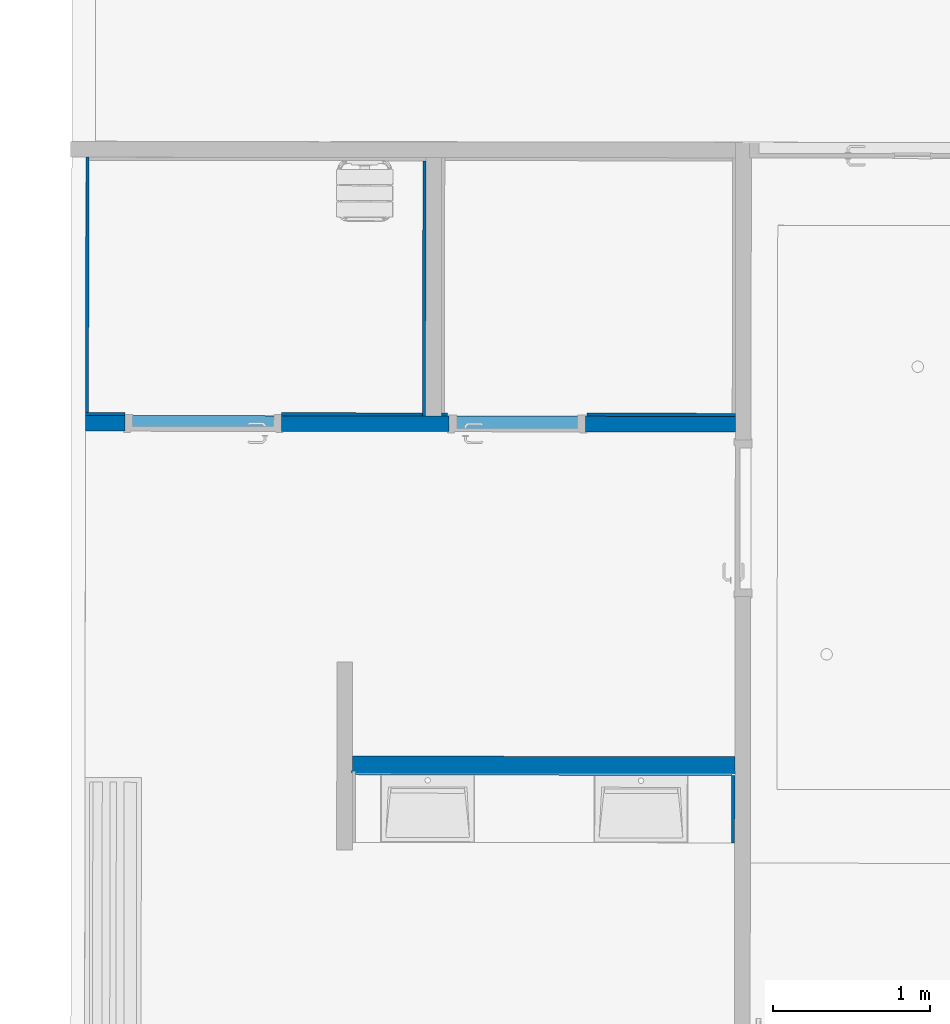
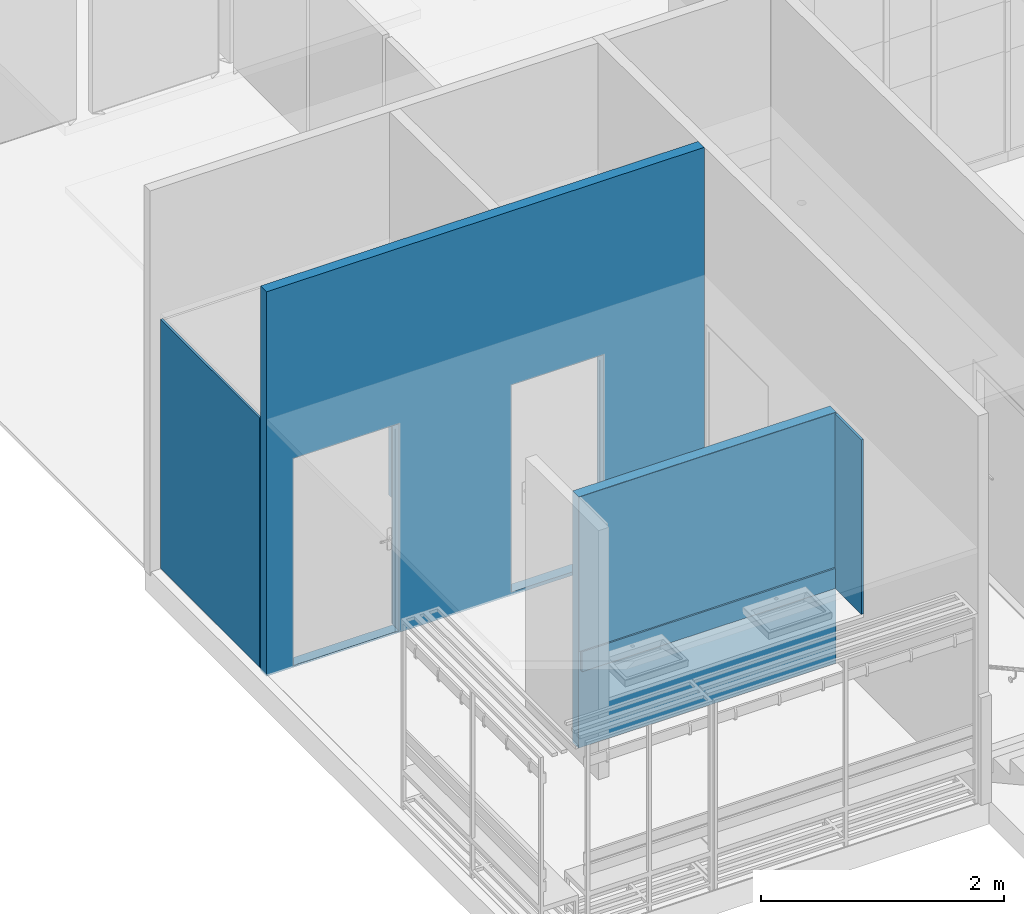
# One storey, part 9 of 43: 9 walls, 4 openings.
"""IFC2X3 building model written with IfcOpenShell, lengths in metres."""

import ifcopenshell
import ifcopenshell.guid

model = None  # the IFC model being written
_history = None  # IfcOwnerHistory: only IFC2X3 demands one
_inside = {}  # id of a spatial element -> (the spatial element, [elements in it])
_under = {}  # id of a project, library or spatial element -> (it, [spatial elements below it])
_declared = {}  # id of a project -> (the project, [libraries it declares])
_typed = {}  # id of a type object -> (the type object, [elements of that type])
_made_of = {}  # id of a material, layer set ... -> (it, [elements and type objects made of it])


def new_model(schema):
    """Start an empty IFC model of exactly this schema.

    Asked for "IFC4X3", IfcOpenShell would pick the latest addendum, in which some entities
    have other attributes; the version numbers below select the first issue.
    IFC2X3 requires an IfcOwnerHistory on every rooted entity: one is made here for all.
    """
    global model, _history
    if schema == "IFC4X3":
        model = ifcopenshell.file(schema_version=(4, 3, 0, 0))
    else:
        model = ifcopenshell.file(schema=schema)
    _inside.clear()
    _under.clear()
    _declared.clear()
    _typed.clear()
    _made_of.clear()
    _history = None
    if model.schema == "IFC2X3":
        org = make("IfcOrganization", Name="unknown")
        user = make(
            "IfcPersonAndOrganization",
            ThePerson=make("IfcPerson", FamilyName="unknown"),
            TheOrganization=org,
        )
        app = make(
            "IfcApplication",
            ApplicationDeveloper=org,
            Version="unknown",
            ApplicationFullName="unknown",
            ApplicationIdentifier="unknown",
        )
        _history = make(
            "IfcOwnerHistory",
            OwningUser=user,
            OwningApplication=app,
            ChangeAction="ADDED",
            CreationDate=0,
        )
    return model


def make(cls, **values):
    """One entity of the class cls with the attributes given. An attribute that is None is left unset."""
    return model.create_entity(
        cls, **{name: value for name, value in values.items() if value is not None}
    )


def entity(cls, *values):
    """Any entity or typed value of the class cls, its attributes in the order of the schema. None: left unset."""
    e = model.create_entity(cls)
    for i, value in enumerate(values):
        if value is not None:
            e[i] = value
    return e


def rooted(cls, **values):
    """An entity with a GlobalId (a new one), such as an element, a storey or a relation."""
    return make(cls, GlobalId=ifcopenshell.guid.new(), OwnerHistory=_history, **values)


def si_unit(unit_type, name, prefix=None):
    """IfcSIUnit, for example si_unit("LENGTHUNIT", "METRE", prefix="MILLI")."""
    return make("IfcSIUnit", UnitType=unit_type, Prefix=prefix, Name=name)


def converted_unit(unit_type, name, factor, base, dimensions=None, offset=None):
    """IfcConversionBasedUnit, such as the inch: factor (a typed value) times the base unit."""
    return make(
        "IfcConversionBasedUnit"
        if offset is None
        else "IfcConversionBasedUnitWithOffset",
        ConversionOffset=offset,
        Dimensions=None
        if dimensions is None
        else entity("IfcDimensionalExponents", *dimensions),
        UnitType=unit_type,
        Name=name,
        ConversionFactor=make(
            "IfcMeasureWithUnit", ValueComponent=factor, UnitComponent=base
        ),
    )


def derived_unit(unit_type, elements):
    """IfcDerivedUnit: a product of units, each with its exponent."""
    return make(
        "IfcDerivedUnit",
        Elements=[
            make("IfcDerivedUnitElement", Unit=unit, Exponent=power)
            for unit, power in elements
        ],
        UnitType=unit_type,
    )


def assignment(units):
    """IfcUnitAssignment: the units of a project."""
    return None if units is None else make("IfcUnitAssignment", Units=units)


def point(xyz):
    """IfcCartesianPoint."""
    return None if xyz is None else make("IfcCartesianPoint", Coordinates=xyz)


def direction(xyz):
    """IfcDirection."""
    return None if xyz is None else make("IfcDirection", DirectionRatios=xyz)


def frame(location, z_axis=None, x_axis=None):
    """IfcAxis2Placement3D, a coordinate frame: its origin and axes. An axis left out is left unset."""
    return make(
        "IfcAxis2Placement3D",
        Location=point(location),
        Axis=direction(z_axis),
        RefDirection=direction(x_axis),
    )


def frame_2d(location, x_axis=None):
    """IfcAxis2Placement2D, a coordinate frame in the plane: its origin and x axis."""
    return make(
        "IfcAxis2Placement2D", Location=point(location), RefDirection=direction(x_axis)
    )


def origin():
    """The frame at (0, 0, 0) with its axes left unset."""
    return frame((0.0, 0.0, 0.0))


def place(relative_to, where):
    """IfcLocalPlacement: puts the frame where relative to a parent placement (None: the world)."""
    return make(
        "IfcLocalPlacement", PlacementRelTo=relative_to, RelativePlacement=where
    )


def context(
    kind, dimensions, precision=None, world=None, true_north=None, identifier=None
):
    """IfcGeometricRepresentationContext, for example the 3D "Model" context."""
    return make(
        "IfcGeometricRepresentationContext",
        ContextIdentifier=identifier,
        ContextType=kind,
        CoordinateSpaceDimension=dimensions,
        Precision=precision,
        WorldCoordinateSystem=world,
        TrueNorth=true_north,
    )


def subcontext(parent, identifier, kind, view, scale=None):
    """IfcGeometricRepresentationSubContext, for example "Body" below "Model"."""
    return make(
        "IfcGeometricRepresentationSubContext",
        ContextIdentifier=identifier,
        ContextType=kind,
        ParentContext=parent,
        TargetScale=scale,
        TargetView=view,
    )


def project(units=None, contexts=None):
    """IfcProject with its units and contexts."""
    return rooted(
        "IfcProject",
        Name="project",
        RepresentationContexts=contexts,
        UnitsInContext=assignment(units),
    )


def spatial(cls, under=None, at=None, **own):
    """A site, building, storey or space (cls), placed at a placement, below another one or the project."""
    s = rooted(cls, ObjectPlacement=at, **own)
    if under is not None:
        _under.setdefault(under.id(), (under, []))[1].append(s)
    return s


def polyline(points):
    """IfcPolyline through the points."""
    return make("IfcPolyline", Points=[point(p) for p in points])


def profile(cls, at=None, kind="AREA", **sizes):
    """A parametric profile (cls). Its sizes go by their IFC names, for example OverallWidth=200.0."""
    return make(cls, ProfileType=kind, Position=at, **sizes)


def rectangle(**sizes):
    """IfcRectangleProfileDef."""
    return profile("IfcRectangleProfileDef", **sizes)


def outline(outer, holes=None, kind="AREA"):
    """IfcArbitraryClosedProfileDef: a profile drawn as a closed curve; with holes, ...WithVoids."""
    if holes is None:
        return make("IfcArbitraryClosedProfileDef", ProfileType=kind, OuterCurve=outer)
    return make(
        "IfcArbitraryProfileDefWithVoids",
        ProfileType=kind,
        OuterCurve=outer,
        InnerCurves=holes,
    )


def extrude(swept, where, along, depth):
    """IfcExtrudedAreaSolid: the profile swept, set in the frame where, extruded along a direction by depth."""
    return make(
        "IfcExtrudedAreaSolid",
        SweptArea=swept,
        Position=where,
        ExtrudedDirection=direction(along),
        Depth=depth,
    )


def clip(a, b, op="DIFFERENCE"):
    """IfcBooleanClippingResult: the solid a cut by the half space b."""
    return make(
        "IfcBooleanClippingResult", Operator=op, FirstOperand=a, SecondOperand=b
    )


def bounded_halfspace(plane, agree, where, boundary):
    """IfcPolygonalBoundedHalfSpace: a half space limited to a polygon's prism."""
    return make(
        "IfcPolygonalBoundedHalfSpace",
        BaseSurface=make("IfcPlane", Position=plane),
        AgreementFlag=agree,
        Position=where,
        PolygonalBoundary=boundary,
    )


def shape(context_of_items, identifier, shape_type, items):
    """IfcShapeRepresentation: the items that make up one representation, for example the "Body"."""
    return make(
        "IfcShapeRepresentation",
        ContextOfItems=context_of_items,
        RepresentationIdentifier=identifier,
        RepresentationType=shape_type,
        Items=items,
    )


def material(Name=None, Category=None):
    """IfcMaterial."""
    return make("IfcMaterial", Name=Name, Category=Category)


def layer(
    of_material, thickness, ventilated=None, Name=None, Category=None, Priority=None
):
    """IfcMaterialLayer: one layer of a wall or slab, of a material (None: an air gap)."""
    return make(
        "IfcMaterialLayer",
        Material=of_material,
        LayerThickness=thickness,
        IsVentilated=ventilated,
        Name=Name,
        Category=Category,
        Priority=Priority,
    )


def layer_set(layers, Name=None):
    """IfcMaterialLayerSet."""
    return make("IfcMaterialLayerSet", MaterialLayers=layers, LayerSetName=Name)


def layer_usage(for_layer_set, set_direction, sense, offset, extent=None):
    """IfcMaterialLayerSetUsage: how a layer set lies in its element."""
    return make(
        "IfcMaterialLayerSetUsage",
        ForLayerSet=for_layer_set,
        LayerSetDirection=set_direction,
        DirectionSense=sense,
        OffsetFromReferenceLine=offset,
        ReferenceExtent=extent,
    )


def made_of(thing, what):
    """Note that an element or type object is made of a material, layer set ...; save() writes the relation."""
    if what is not None:
        _made_of.setdefault(what.id(), (what, []))[1].append(thing)
    return thing


def type_object(cls, material=None, **own):
    """A type object (cls), such as IfcWallType, which elements share."""
    return made_of(rooted(cls, **own), material)


def element(
    cls,
    number,
    at=None,
    inside=None,
    cuts=None,
    type_object=None,
    material=None,
    context=None,
    identifier="Body",
    shape_type=None,
    held_by="IfcProductDefinitionShape",
    body=None,
    shapes=None,
    **own,
):
    """One element of the class cls, such as IfcWall. Its Tag is "e" and its number.

    at: its placement. inside: the storey or other place that contains it. cuts: it is an
    opening in that element (IfcRelVoidsElement). A single representation is given by context,
    identifier, shape_type and body (its items); several are given by shapes. held_by: the class
    of the entity that holds the representations. save() writes the other relations.
    """
    e = rooted(cls, Tag="e%d" % number, ObjectPlacement=at, **own)
    if body is not None:
        shapes = [shape(context, identifier, shape_type, body)]
    if shapes is not None:
        e.Representation = make(held_by, Representations=shapes)
    if inside is not None:
        _inside.setdefault(inside.id(), (inside, []))[1].append(e)
    if cuts is not None:
        rooted(
            "IfcRelVoidsElement", RelatingBuildingElement=cuts, RelatedOpeningElement=e
        )
    if type_object is not None:
        _typed.setdefault(type_object.id(), (type_object, []))[1].append(e)
    return made_of(e, material)


def aggregate(whole, parts):
    """IfcRelAggregates: a whole, such as a stair, and the parts it consists of."""
    return rooted("IfcRelAggregates", RelatingObject=whole, RelatedObjects=parts)


def save(model, path):
    """Write the relations noted so far, then the file.

    IfcRelAggregates (storeys below a building ...), IfcRelContainedInSpatialStructure (elements
    in a storey), IfcRelDefinesByType, IfcRelAssociatesMaterial and IfcRelDeclares: one each for
    every whole, place, type object, material and project.
    """
    for whole, parts in _under.values():
        aggregate(whole, parts)
    for where, things in _inside.values():
        rooted(
            "IfcRelContainedInSpatialStructure",
            RelatedElements=things,
            RelatingStructure=where,
        )
    for kind, things in _typed.values():
        rooted("IfcRelDefinesByType", RelatedObjects=things, RelatingType=kind)
    for what, things in _made_of.values():
        rooted("IfcRelAssociatesMaterial", RelatedObjects=things, RelatingMaterial=what)
    for by, libraries in _declared.values():
        rooted("IfcRelDeclares", RelatingContext=by, RelatedDefinitions=libraries)
    model.write(path)


model = new_model("IFC2X3")

# Units and contexts
model_context = context("Model", 3, precision=1e-05, world=origin(), true_north=direction((6.123233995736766e-17, 1.0)))
body_context = subcontext(model_context, "Body", "Model", "MODEL_VIEW")
ifc_project = project(units=[si_unit("LENGTHUNIT", "METRE"), si_unit("AREAUNIT", "SQUARE_METRE"), converted_unit("PLANEANGLEUNIT", "DEGREE", entity("IfcPlaneAngleMeasure", 0.017453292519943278), si_unit("PLANEANGLEUNIT", "RADIAN"), dimensions=[0, 0, 0, 0, 0, 0, 0]), derived_unit("THERMALTRANSMITTANCEUNIT", [(si_unit("MASSUNIT", "GRAM", prefix="KILO"), 1), (si_unit("THERMODYNAMICTEMPERATUREUNIT", "KELVIN"), -1), (si_unit("TIMEUNIT", "SECOND"), -3)])], contexts=[model_context])

# Site, building, storey
site_placement = place(None, frame((1253.6752467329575, 2072.143113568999, 91.49999999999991), z_axis=(0.0, 0.0, 1.0), x_axis=(0.7237211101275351, 0.6900925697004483, 0.0)))
site = spatial("IfcSite", under=ifc_project, at=site_placement, Name="Surface", CompositionType="ELEMENT")
building_placement = place(site_placement, origin())
building = spatial("IfcBuilding", under=site, at=building_placement, CompositionType="ELEMENT")
storey_placement = place(building_placement, frame((0.0, 0.0, -4.629999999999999)))
storey = spatial("IfcBuildingStorey", under=building, at=storey_placement, Name="rez de rue -1.10m", CompositionType="ELEMENT", Elevation=-4.629999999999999)

# Wall, openings
ifc_material_1 = material(Name="OMD_Cloison 100mm")
ifc_layer_1 = layer(ifc_material_1, 0.1)
ifc_layer_set_1 = layer_set([ifc_layer_1], Name="Mur de base:Cloison 100mm")
ifc_layer_usage_1 = layer_usage(ifc_layer_set_1, "AXIS2", "NEGATIVE", 0.05)
wall_type_1 = type_object("IfcWallType", Name="Mur de base:Cloison 100mm", PredefinedType="STANDARD", material=ifc_layer_set_1)
wall_1_placement = place(storey_placement, frame((163.2212890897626, 4.33212584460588, -0.019999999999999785), z_axis=(0.0, 0.0, 1.0), x_axis=(0.7227070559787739, -0.6911544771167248, 0.0)))
wall_1 = element("IfcWallStandardCase", 1, at=wall_1_placement, inside=storey, type_object=wall_type_1, material=ifc_layer_usage_1, Name="Mur de base:Cloison 100mm", ObjectType="Mur de base:Cloison 100mm", context=body_context, shape_type="Clipping", body=[
    clip(clip(extrude(outline(polyline([(4.147726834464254, -0.05000000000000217), (4.14772683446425, 0.049999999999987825), (0.0, 0.04999999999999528), (2.3611774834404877e-05, -0.04999999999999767), (4.147726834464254, -0.05000000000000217)])), origin(), (0.0, 0.0, 1.0), 3.8572116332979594), bounded_halfspace(frame((4.147726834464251, -0.05000000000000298, 3.8572116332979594), z_axis=(0.0, 0.00890106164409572, 0.9999603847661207), x_axis=(-1.0, 0.0, 0.0)), False, frame((4.147726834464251, -0.05000000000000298, 3.8572116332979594)), polyline([(0.0, 0.0), (0.0, 0.09999999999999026), (-1.011275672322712, 0.09999999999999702), (-1.0105571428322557, 0.0), (0.0, 0.0)]))), bounded_halfspace(frame((0.0, 0.04999999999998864, 3.8559203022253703), z_axis=(-0.00012790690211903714, 0.008900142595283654, 0.9999603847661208), x_axis=(-0.9998967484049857, -0.014369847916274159, 0.0)), False, frame((0.0, 0.04999999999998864, 3.8559203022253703)), polyline([(0.0, 0.0), (2.361177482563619e-05, -0.09999999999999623), (3.1371696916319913, -0.10000000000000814), (3.136451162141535, 0.0), (2.270801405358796, 0.0), (2.1708014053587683, 0.0), (0.0, 0.0)]))),
])
opening_1_placement = place(wall_1_placement, frame((1.2515590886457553, 0.049999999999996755, 0.019999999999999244)))
element("IfcOpeningElement", 2, at=opening_1_placement, cuts=wall_1, Name="Grz_porte 1V recouvrement 30°:93x204:1", ObjectType="Opening", context=body_context, shape_type="SweptSolid", body=[
    extrude(rectangle(XDim=2.0749999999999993, YDim=0.999999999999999, at=frame_2d((1.0374999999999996, 0.4999999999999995), x_axis=(1.0, 0.0))), frame((0.0, 0.0, 0.0), z_axis=(0.0, -1.0, 0.0), x_axis=(0.0, 0.0, 1.0)), (0.0, 0.0, 1.0), 0.1),
])
opening_2_placement = place(wall_1_placement, frame((3.1908014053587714, 0.050000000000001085, 0.03499999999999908)))
element("IfcOpeningElement", 3, at=opening_2_placement, cuts=wall_1, Name="Grz_porte 1V recouvrement 30°:80x204:1", ObjectType="Opening", context=body_context, shape_type="SweptSolid", body=[
    extrude(rectangle(XDim=2.0749999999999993, YDim=0.8699999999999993, at=frame_2d((1.0374999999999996, 0.43500000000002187), x_axis=(1.0, 0.0))), frame((0.0, 0.0, 0.0), z_axis=(0.0, -1.0, 0.0), x_axis=(0.0, 0.0, 1.0)), (0.0, 0.0, 1.0), 0.1),
])

# Walls
ifc_layer_usage_2 = layer_usage(ifc_layer_set_1, "AXIS2", "POSITIVE", -0.05)
wall_2_placement = place(storey_placement, frame((164.71810166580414, -0.10390362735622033, -0.019999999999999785), z_axis=(0.0, 0.0, 1.0), x_axis=(-0.7225438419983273, 0.691325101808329, 0.0)))
element("IfcWallStandardCase", 4, at=wall_2_placement, inside=storey, type_object=wall_type_1, material=ifc_layer_usage_2, Name="Mur de base:Cloison 100mm", ObjectType="Mur de base:Cloison 100mm", context=body_context, shape_type="Clipping", body=[
    clip(extrude(outline(polyline([(2.4406589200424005, -0.05000000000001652), (2.4406589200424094, 0.04999999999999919), (0.0, 0.049999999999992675), (2.3611774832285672e-05, -0.05000000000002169), (2.4406589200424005, -0.05000000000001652)])), origin(), (0.0, 0.0, 1.0), 2.5199999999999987), bounded_halfspace(frame((2.3611774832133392e-05, -0.0500000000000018, 2.5199999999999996), z_axis=(0.0, 0.0, -1.0), x_axis=(-0.0002361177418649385, 0.9999999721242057, 0.0)), True, frame((2.3611774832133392e-05, -0.0500000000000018, 2.5199999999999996)), polyline([(0.0, 0.0), (2.440635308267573, 0.0), (2.4406353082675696, 0.1000000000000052), (-2.3611774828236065e-05, 0.10000000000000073), (0.0, 0.0)]))),
])
ifc_material_2 = material(Name="OMD_faïence 6.5*20")
ifc_layer_2 = layer(ifc_material_2, 0.02)
ifc_layer_set_2 = layer_set([ifc_layer_2], Name="Mur de base:faïence")
ifc_layer_usage_3 = layer_usage(ifc_layer_set_2, "AXIS2", "NEGATIVE", 0.010000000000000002)
wall_type_2 = type_object("IfcWallType", Name="Mur de base:faïence", PredefinedType="STANDARD", material=ifc_layer_set_2)
wall_3_placement = place(storey_placement, frame((162.9281163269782, 1.5261867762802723, 0.7500000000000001), z_axis=(0.0, 0.0, 1.0), x_axis=(0.7219986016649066, -0.6918945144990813, 0.0)))
element("IfcWallStandardCase", 5, at=wall_3_placement, inside=storey, type_object=wall_type_2, material=ifc_layer_usage_3, Name="Mur de base:faïence", ObjectType="Mur de base:faïence", context=body_context, shape_type="SweptSolid", body=[
    extrude(outline(polyline([(2.4002790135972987, -0.009999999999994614), (2.400276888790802, -0.007925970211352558), (2.4002585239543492, 0.010000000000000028), (0.0, 0.01000000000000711), (2.0489642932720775e-05, -0.010000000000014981), (2.4002790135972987, -0.009999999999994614)])), origin(), (0.0, 0.0, 1.0), 0.2),
])
ifc_layer_usage_4 = layer_usage(ifc_layer_set_2, "AXIS2", "POSITIVE", -0.010000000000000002)
wall_4_placement = place(storey_placement, frame((164.3650960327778, -0.45853904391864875, 0.7500000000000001), z_axis=(0.0, 0.0, 1.0), x_axis=(0.6911544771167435, 0.7227070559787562, 0.0)))
element("IfcWallStandardCase", 6, at=wall_4_placement, inside=storey, type_object=wall_type_2, material=ifc_layer_usage_4, Name="Mur de base:faïence", ObjectType="Mur de base:faïence", context=body_context, shape_type="SweptSolid", body=[
    extrude(rectangle(XDim=0.4308153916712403, YDim=0.01999999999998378, at=frame_2d((0.21540769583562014, 1.9246756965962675e-15), x_axis=(-1.0, 0.0))), origin(), (0.0, 0.0, 1.0), 1.7499999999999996),
])
ifc_material_3 = material(Name="OMD-miroir")
ifc_layer_3 = layer(ifc_material_3, 0.005)
ifc_layer_set_3 = layer_set([ifc_layer_3], Name="Mur de base:miroir")
ifc_layer_usage_5 = layer_usage(ifc_layer_set_3, "AXIS2", "NEGATIVE", 0.0024999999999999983)
wall_type_3 = type_object("IfcWallType", Name="Mur de base:miroir", PredefinedType="STANDARD", material=ifc_layer_set_3)
wall_5_placement = place(storey_placement, frame((162.91832002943, 1.5454482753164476, 0.9500000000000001), z_axis=(0.0, 0.0, 1.0), x_axis=(0.7227070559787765, -0.6911544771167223, 0.0)))
element("IfcWallStandardCase", 7, at=wall_5_placement, inside=storey, type_object=wall_type_3, material=ifc_layer_usage_5, Name="Mur de base:miroir", ObjectType="Mur de base:miroir", context=body_context, shape_type="SweptSolid", body=[
    extrude(outline(polyline([(2.4406600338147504, -0.00249999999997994), (2.4406600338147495, 0.0025000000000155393), (1.1805887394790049e-06, 0.002500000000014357), (0.0, -0.002499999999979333), (2.4406600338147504, -0.00249999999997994)])), origin(), (0.0, 0.0, 1.0), 1.5499999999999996),
])
ifc_material_4 = material(Name="OMD faience douche 60*120")
ifc_layer_4 = layer(ifc_material_4, 0.02)
ifc_layer_set_4 = layer_set([ifc_layer_4], Name="Mur de base:faïence douches")
ifc_layer_usage_6 = layer_usage(ifc_layer_set_4, "AXIS2", "POSITIVE", -0.010000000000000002)
wall_type_4 = type_object("IfcWallType", Name="Mur de base:faïence douches", PredefinedType="STANDARD", material=ifc_layer_set_4)
wall_6_placement = place(storey_placement, frame((165.94316608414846, 4.0518966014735, 0.0), z_axis=(0.0, 0.0, 1.0), x_axis=(-0.691154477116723, -0.7227070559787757, 0.0)))
element("IfcWallStandardCase", 8, at=wall_6_placement, inside=storey, type_object=wall_type_4, material=ifc_layer_usage_6, Name="Mur de base:faïence douches", ObjectType="Mur de base:faïence douches", context=body_context, shape_type="SweptSolid", body=[
    extrude(rectangle(XDim=1.6287138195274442, YDim=0.019999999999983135, at=frame_2d((0.8143569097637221, -7.251144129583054e-16), x_axis=(-1.0, 0.0))), origin(), (0.0, 0.0, 1.0), 2.499999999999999),
])

# Wall, opening
ifc_layer_usage_7 = layer_usage(ifc_layer_set_4, "AXIS2", "POSITIVE", -0.010000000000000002)
wall_7_placement = place(storey_placement, frame((164.81715771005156, 2.888952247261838, 0.0), z_axis=(0.0, 0.0, 1.0), x_axis=(-0.7227070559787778, 0.6911544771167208, 0.0)))
wall_7 = element("IfcWallStandardCase", 9, at=wall_7_placement, inside=storey, type_object=wall_type_4, material=ifc_layer_usage_7, Name="Mur de base:faïence douches", ObjectType="Mur de base:faïence douches", context=body_context, shape_type="SweptSolid", body=[
    extrude(rectangle(XDim=2.150912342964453, YDim=0.019999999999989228, at=frame_2d((1.0754561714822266, 4.620435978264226e-15), x_axis=(-1.0, 0.0))), origin(), (0.0, 0.0, 1.0), 2.499999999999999),
])
opening_3_placement = place(wall_7_placement, origin())
element("IfcOpeningElement", 10, at=opening_3_placement, cuts=wall_7, Name="Mur de base:faïence douches", ObjectType="Opening", context=body_context, shape_type="SweptSolid", body=[
    extrude(rectangle(XDim=2.054999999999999, YDim=0.9999999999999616, at=frame_2d((-1.942890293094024e-16, -3.3306690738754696e-16), x_axis=(0.0, 1.0))), frame((1.399242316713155, 0.010000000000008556, 1.0274999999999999), z_axis=(0.0, -1.0, 0.0), x_axis=(1.0, 0.0, 0.0)), (0.0, 0.0, 1.0), 0.020000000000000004),
])

# Wall
ifc_layer_usage_8 = layer_usage(ifc_layer_set_4, "AXIS2", "NEGATIVE", 0.010000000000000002)
wall_8_placement = place(storey_placement, frame((164.40266476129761, 5.553125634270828, 0.0), z_axis=(0.0, 0.0, 1.0), x_axis=(-0.6911544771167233, -0.7227070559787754, 0.0)))
element("IfcWallStandardCase", 11, at=wall_8_placement, inside=storey, type_object=wall_type_4, material=ifc_layer_usage_8, Name="Mur de base:faïence douches", ObjectType="Mur de base:faïence douches", context=body_context, shape_type="SweptSolid", body=[
    extrude(outline(polyline([(1.6289382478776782, -0.010000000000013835), (1.6289382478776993, 0.009999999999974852), (0.0, 0.009999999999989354), (4.722354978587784e-06, -0.010000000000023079), (1.6289382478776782, -0.010000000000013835)])), origin(), (0.0, 0.0, 1.0), 2.499999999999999),
])

# Wall, opening
ifc_layer_usage_9 = layer_usage(ifc_layer_set_4, "AXIS2", "NEGATIVE", 0.010000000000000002)
wall_9_placement = place(storey_placement, frame((164.90388255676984, 2.8060137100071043, 0.0), z_axis=(0.0, 0.0, 1.0), x_axis=(0.7227070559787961, -0.6911544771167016, 0.0)))
wall_9 = element("IfcWallStandardCase", 12, at=wall_9_placement, inside=storey, type_object=wall_type_4, material=ifc_layer_usage_9, Name="Mur de base:faïence douches", ObjectType="Mur de base:faïence douches", context=body_context, shape_type="SweptSolid", body=[
    extrude(rectangle(XDim=1.876925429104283, YDim=0.019999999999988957, at=frame_2d((0.9384627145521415, -1.7425297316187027e-15), x_axis=(-1.0, 0.0))), origin(), (0.0, 0.0, 1.0), 2.5),
])
opening_4_placement = place(wall_9_placement, origin())
element("IfcOpeningElement", 13, at=opening_4_placement, cuts=wall_9, Name="Mur de base:faïence douches", ObjectType="Opening", context=body_context, shape_type="SweptSolid", body=[
    extrude(rectangle(XDim=2.099999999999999, YDim=0.8900000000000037, at=frame_2d((1.8984813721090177e-14, 0.0), x_axis=(0.0, 1.0))), frame((0.4849999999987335, 0.009999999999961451, 1.0499999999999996), z_axis=(0.0, -1.0, 0.0), x_axis=(1.0, 0.0, 0.0)), (0.0, 0.0, 1.0), 0.020000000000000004),
])

save(model, "model.ifc")
